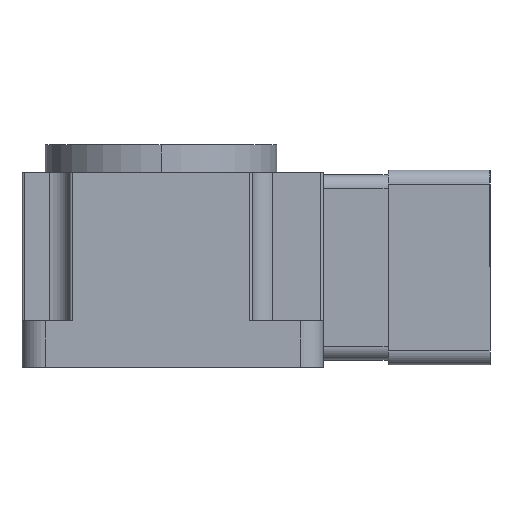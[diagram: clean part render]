
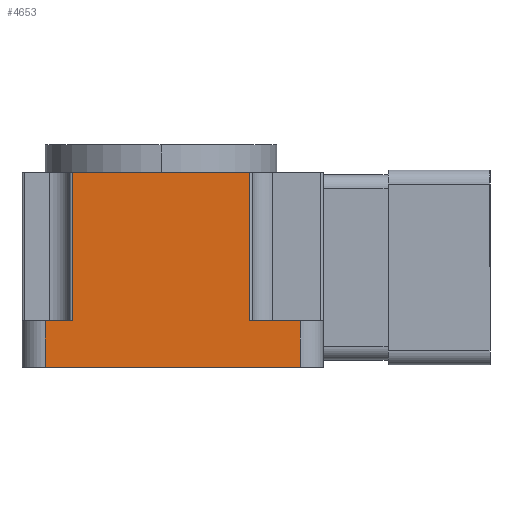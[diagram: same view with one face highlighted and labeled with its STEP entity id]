
A CAD part, left-side view. The second image highlights one B-rep face of the part: STEP entity #4653.
In plain terms, the highlighted planar face has unit normal (-1, 0, 0).
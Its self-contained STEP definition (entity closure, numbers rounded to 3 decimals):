
#52 = LINE ( 'NONE', #7843, #41005 ) ;
#384 = VECTOR ( 'NONE', #9150, 1000. ) ;
#504 = VECTOR ( 'NONE', #40824, 1000. ) ;
#2608 = CARTESIAN_POINT ( 'NONE',  ( -30., -19.2, 10. ) ) ;
#2831 = VERTEX_POINT ( 'NONE', #40726 ) ;
#4468 = LINE ( 'NONE', #23584, #24282 ) ;
#4653 = ADVANCED_FACE ( 'NONE', ( #23973 ), #25659, .F. ) ;
#4711 = VECTOR ( 'NONE', #35530, 1000. ) ;
#5951 = LINE ( 'NONE', #11066, #26953 ) ;
#5977 = DIRECTION ( 'NONE',  ( 1., 0., 0. ) ) ;
#7822 = CARTESIAN_POINT ( 'NONE',  ( -30., 25., 0. ) ) ;
#7843 = CARTESIAN_POINT ( 'NONE',  ( -30., 19.2, 42. ) ) ;
#8747 = CARTESIAN_POINT ( 'NONE',  ( -30., 25., 10. ) ) ;
#8962 = EDGE_CURVE ( 'NONE', #30795, #17591, #19382, .T. ) ;
#9150 = DIRECTION ( 'NONE',  ( 0., -1., 0. ) ) ;
#9900 = CARTESIAN_POINT ( 'NONE',  ( -30., 25., 42. ) ) ;
#11016 = LINE ( 'NONE', #36791, #384 ) ;
#11066 = CARTESIAN_POINT ( 'NONE',  ( -30., -19.2, 42. ) ) ;
#11126 = LINE ( 'NONE', #24681, #504 ) ;
#11201 = ORIENTED_EDGE ( 'NONE', *, *, #28133, .F. ) ;
#13185 = EDGE_CURVE ( 'NONE', #34984, #28171, #11016, .T. ) ;
#13910 = DIRECTION ( 'NONE',  ( 0., 0., 1. ) ) ;
#14000 = VERTEX_POINT ( 'NONE', #7822 ) ;
#15284 = LINE ( 'NONE', #31519, #4711 ) ;
#17591 = VERTEX_POINT ( 'NONE', #17857 ) ;
#17857 = CARTESIAN_POINT ( 'NONE',  ( -30., -30., 10. ) ) ;
#17871 = ORIENTED_EDGE ( 'NONE', *, *, #39834, .F. ) ;
#18143 = VECTOR ( 'NONE', #40392, 1000. ) ;
#19382 = LINE ( 'NONE', #8747, #18143 ) ;
#21942 = EDGE_CURVE ( 'NONE', #14000, #34984, #50042, .T. ) ;
#22196 = CARTESIAN_POINT ( 'NONE',  ( -30., 25., 10. ) ) ;
#22962 = DIRECTION ( 'NONE',  ( 0., 0., -1. ) ) ;
#23584 = CARTESIAN_POINT ( 'NONE',  ( -30., 25., 42. ) ) ;
#23973 = FACE_OUTER_BOUND ( 'NONE', #32773, .T. ) ;
#24282 = VECTOR ( 'NONE', #27515, 1000. ) ;
#24666 = VERTEX_POINT ( 'NONE', #33813 ) ;
#24681 = CARTESIAN_POINT ( 'NONE',  ( -30., -30., 0. ) ) ;
#24842 = EDGE_CURVE ( 'NONE', #17591, #2831, #15284, .T. ) ;
#25659 = PLANE ( 'NONE',  #44539 ) ;
#25912 = CARTESIAN_POINT ( 'NONE',  ( -30., -19.2, 42. ) ) ;
#26953 = VECTOR ( 'NONE', #22962, 1000. ) ;
#27515 = DIRECTION ( 'NONE',  ( 0., -1., 0. ) ) ;
#28133 = EDGE_CURVE ( 'NONE', #2831, #14000, #11126, .T. ) ;
#28171 = VERTEX_POINT ( 'NONE', #48778 ) ;
#28371 = ORIENTED_EDGE ( 'NONE', *, *, #8962, .F. ) ;
#28908 = VECTOR ( 'NONE', #13910, 1000. ) ;
#29012 = ORIENTED_EDGE ( 'NONE', *, *, #24842, .F. ) ;
#29619 = CARTESIAN_POINT ( 'NONE',  ( -30., 25., 42. ) ) ;
#30795 = VERTEX_POINT ( 'NONE', #2608 ) ;
#31471 = DIRECTION ( 'NONE',  ( 0., 0., 1. ) ) ;
#31519 = CARTESIAN_POINT ( 'NONE',  ( -30., -30., 42. ) ) ;
#32773 = EDGE_LOOP ( 'NONE', ( #33285, #48422, #44051, #11201, #29012, #28371, #17871, #34460 ) ) ;
#33285 = ORIENTED_EDGE ( 'NONE', *, *, #45112, .F. ) ;
#33619 = DIRECTION ( 'NONE',  ( 0., 0., -1. ) ) ;
#33813 = CARTESIAN_POINT ( 'NONE',  ( -30., 19.2, 42. ) ) ;
#34460 = ORIENTED_EDGE ( 'NONE', *, *, #50090, .F. ) ;
#34984 = VERTEX_POINT ( 'NONE', #22196 ) ;
#35530 = DIRECTION ( 'NONE',  ( 0., 0., -1. ) ) ;
#36791 = CARTESIAN_POINT ( 'NONE',  ( -30., 25., 10. ) ) ;
#39834 = EDGE_CURVE ( 'NONE', #40724, #30795, #5951, .T. ) ;
#40392 = DIRECTION ( 'NONE',  ( 0., -1., 0. ) ) ;
#40724 = VERTEX_POINT ( 'NONE', #25912 ) ;
#40726 = CARTESIAN_POINT ( 'NONE',  ( -30., -30., 0. ) ) ;
#40824 = DIRECTION ( 'NONE',  ( 0., 1., 0. ) ) ;
#41005 = VECTOR ( 'NONE', #31471, 1000. ) ;
#44051 = ORIENTED_EDGE ( 'NONE', *, *, #21942, .F. ) ;
#44539 = AXIS2_PLACEMENT_3D ( 'NONE', #29619, #5977, #33619 ) ;
#45112 = EDGE_CURVE ( 'NONE', #28171, #24666, #52, .T. ) ;
#48422 = ORIENTED_EDGE ( 'NONE', *, *, #13185, .F. ) ;
#48778 = CARTESIAN_POINT ( 'NONE',  ( -30., 19.2, 10. ) ) ;
#50042 = LINE ( 'NONE', #9900, #28908 ) ;
#50090 = EDGE_CURVE ( 'NONE', #24666, #40724, #4468, .T. ) ;
